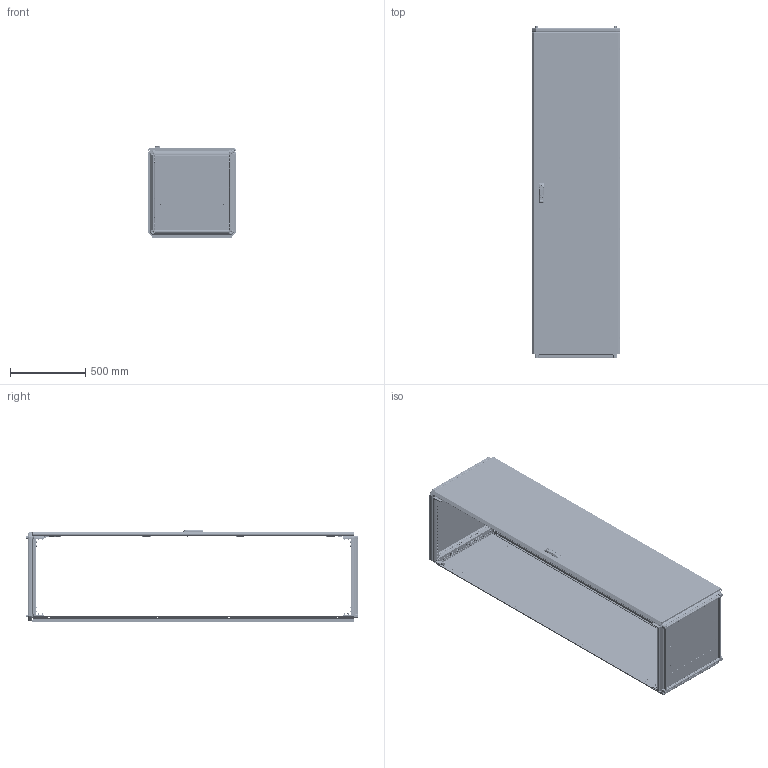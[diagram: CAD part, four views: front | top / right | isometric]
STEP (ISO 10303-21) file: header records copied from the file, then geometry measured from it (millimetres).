
FILE_DESCRIPTION (( 'STEP AP203' ), '1' );
FILE_NAME ('MA1.000.060622.10.00 AleSta2266 Øêàô AleSta 600õ600õ2200.STEP', '2024-08-23T08:46:43', ( '' ), ( '' ), 'SwSTEP 2.0', 'SolidWorks 2021', '' );
FILE_SCHEMA (( 'CONFIG_CONTROL_DESIGN' ));
Length unit declared in the file: millimetre
Products named in the file (49): 7380-2 ISO Âèíòû ñ ïîëóêðóãëîé ãîëîâêîé ñ ôëàíöåì ñ âíóòðåííèì øåñòèãðàííèêîì Ì4õ10; òÿãà_lg001-2.STEP_‚=2200; MA1.101.060620.20.00 Íèæíÿÿ ïàíåëü 600õ600_600å600; MA1.200.060620.31.01 Ïîëîòíî äâåðè ñïëîøíîé 2000õ600_2200å600; MA1.102.060620.00.00 AleSta-VG2000 Ñòîéêè âåðòèêàëüíûå, Â=2000ìì  (4øò)_ 600å600; MA1.101.060620.00.00 AleSta-RB66 Êîìïëåêò êðûøà è îñíîâàíèå_ 600å600; 諘蜱齁罻 022 瀁錒瀔隮; Óïëîòíèòåëü ïàíåëè íèæíåé_ 600å600; Ãàéêà ñàìîêîíòðÿùàÿñÿ ñ íåéëîíîâîé âñòàâêîé Ì6 DIN 985, êëàññ ïðî÷íîñòè 8, îöèíêîâàííàÿ ñòàëü_Œ5; ﾘ琺矜 01.019 ﾃﾎﾑﾒ11371-78_12; Ïåòëÿ íà äâåðü ï-îáðàçíàÿ; MA1.200.060620.30.00 AleSta-D20M600 Äâåðü ñïëîøíàÿ äëÿ øêàôîâ ALESTA ÂõØ 2000õ600_2200å600; ﾘ琺矜 65ﾃ 019 ﾃﾎﾑﾒ 6402-70_12; Âèíò_ðåçüáîâûäàâëèâàþùèé_Ì5õ12_DIN 7500E_00; Øïèëüêà Ì6õ12_˜¯¨«ìª  Œ6å12; MA1.200.060620.10.00 AleSta-PR206  Ïàíåëü çàäíÿÿ, äëÿ øêàôîâ ALESTA, 2000 x 600_2200å600; MA1.200.060620.31.04 ðèãåëü çàìêà äâåðè; Âèíò ñàìîíàðåçàþùèé ñ ïîòàéíîé ãîëîâêîé Ì5x14 DIN 7500 M TORX, êëàññ ïðî÷íîñòè 8.8, îöèíêîâàííàÿ ñòàëü_Œ5å14; MA1.200.060620.11.00 Ïàíåëü çàäíÿÿ, äëÿ øêàôîâ AleSta, 2000x600_2200å600; MA1.101.060620.20.01 Ïîëîòíî íèæíåé ïàíåëè 600õ600_600å600; MA1.200.060620.11.01 Ïîëîòíî çàäíåé ïàíåëè 2000õ600_2200å600; MA1.101.060620.00.02 Ïðîôèëü ïîïåðå÷íûé ñâàðíîé_01 L=498 (˜=600); Áîëò øåñòèãðàííûé Ì5õ12 DIN 933, êëàññ ïðî÷íîñòè 8.8, îöèíêîâàííàÿ ñòàëü; MS463-2-3(1); Øàéáà ñòîïîðíàÿ ñ íàðóæíûìè çóáöàìè SCHNORR, òèï VS öèíêîâûå õëîïüÿ Ì6 O6,4 ART 88121_Œ6; Ïðîáêà ïëàñòèêîâàÿ óíèâåðñàëüíàÿ ïîä îòâåðñòèå 4,5 ìì, ñåðèÿ ST, öâåò áåñöâåòíûé – ST4,5; MA1.200.060620.31.03 Ðåéêà íà äâåðü ãîðèçîíòàëüíàÿ Ø = 600_˜ = 600; Øïèëüêà Ì6õ12_˜¯¨«ìª  Œ6å20; Âèíò ðåçüáîâûäàâëèâàþùèé Ì6õ12 DIN 7500E_Œ6å10; Âèíò_ðåçüáîâûäàâëèâàþùèé_Ì5õ12_DIN 7500E_Œ5å12; Âèíò ñ âí. øåñòèãðàííèêîì M12 DIN912_•30; MA1.200.060620.31.00 Äâåðü ñïëîøíàÿ äëÿ øêàôîâ ALESTA ÂõØ 2000õ600_2200å600; MA1.101.060620.10.00 ﾊ 600x600_600x600; Øïèëüêà Ì6õ12_˜¯¨«ìª  Œ6å16; MA1.000.060622.10.00 AleSta2266 Øêàô AleSta 600õ600õ2200; MA1.100.060620.00.01 Ñîåäèíèòåëü óãëîâîé_00; MA1.101.060620.10.01 Ïîëîòíî êðûøè 600õ600_600å600; äåðæàòåëü_êðóãëîé_òÿãèRG002-RG1010-2-i-RG1010-3-.stp; Íàâåñêà íà êîðïóñ ïîä êëåïêó; Óïëîòíèòåëü ïàíåëè íèæíåé_‚=2200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
Assembly tree (337 placements, depth 4):
  Ïðîáêà ïëàñòèêîâàÿ óíèâåðñàëüíàÿ ïîä îòâåðñòèå 4,5 ìì, ñåðèÿ ST, öâåò áåñöâåòíûé – ST4,5
  MA1.000.060622.10.00 AleSta2266 Øêàô AleSta 600õ600õ2200
    MA1.101.060620.00.00 AleSta-RB66 Êîìïëåêò êðûøà è îñíîâàíèå_ 600å600
      MA1.101.060620.00.02 Ïðîôèëü ïîïåðå÷íûé ñâàðíîé_01 L=498 (˜=600)  x8
      MA1.101.060620.10.00 ﾊ 600x600_600x600
        MA1.101.060620.10.01 Ïîëîòíî êðûøè 600õ600_600å600
        Øïèëüêà Ì6õ12_˜¯¨«ìª  Œ6å12  x4
        Óïëîòíèòåëü ïàíåëè íèæíåé_ 600å600
      MA1.101.060620.20.00 Íèæíÿÿ ïàíåëü 600õ600_600å600
        MA1.101.060620.20.01 Ïîëîòíî íèæíåé ïàíåëè 600õ600_600å600
        ﾇﾀﾊﾋﾅﾏﾊﾀ ﾃﾀﾅﾗﾍﾀﾟ ﾘﾅﾑﾒﾈﾃﾐﾀﾍﾍﾀﾟ ﾑ ﾓﾌﾅﾍﾜﾘﾅﾍﾍﾛﾌ ﾁﾎﾐﾒﾎﾌ M4 X 11 (0.5-2.5 ﾌﾌ) HEX U-S ﾖﾈﾍﾊ  x4
        MA1.101.060620.20.02 Çàêðûòèå íèæíåé ïàíåëè 600õ600_600å600  x2
        7380-2 ISO Âèíòû ñ ïîëóêðóãëîé ãîëîâêîé ñ ôëàíöåì ñ âíóòðåííèì øåñòèãðàííèêîì Ì4õ10  x4
      Âèíò_ðåçüáîâûäàâëèâàþùèé_Ì5õ12_DIN 7500E_Œ5å12  x8
      MA1.100.060620.00.01 Ñîåäèíèòåëü óãëîâîé_00  x8
      Âèíò ñ âí. øåñòèãðàííèêîì M12 DIN912_•30  x4
      Âèíò ðåçüáîâûäàâëèâàþùèé Ì6õ12 DIN 7500E_Œ6å10  x96
      ﾘ琺矜 01.019 ﾃﾎﾑﾒ11371-78_12  x4
      ﾘ琺矜 65ﾃ 019 ﾃﾎﾑﾒ 6402-70_12  x4
      Øàéáà ñòîïîðíàÿ ñ íàðóæíûìè çóáöàìè SCHNORR, òèï VS öèíêîâûå õëîïüÿ Ì6 O6,4 ART 88121_Œ6  x80
    MA1.102.060620.00.00 AleSta-VG2000 Ñòîéêè âåðòèêàëüíûå, Â=2000ìì  (4øò)_ 600å600
      MA1.102.060620.00.01 Ïðîôèëü âåðòèêàëüíûé ñâàðíîé_05 L=2098 (‚=2200)  x4
    MA1.200.060620.10.00 AleSta-PR206  Ïàíåëü çàäíÿÿ, äëÿ øêàôîâ ALESTA, 2000 x 600_2200å600
      MA1.200.060620.11.00 Ïàíåëü çàäíÿÿ, äëÿ øêàôîâ AleSta, 2000x600_2200å600
        MA1.200.060620.11.01 Ïîëîòíî çàäíåé ïàíåëè 2000õ600_2200å600
        Óïëîòíèòåëü ïàíåëè íèæíåé_‚=2200
        Øïèëüêà Ì6õ12_˜¯¨«ìª  Œ6å12  x4
      Âèíò ñàìîíàðåçàþùèé ñ ïîòàéíîé ãîëîâêîé Ì5x14 DIN 7500 M TORX, êëàññ ïðî÷íîñòè 8.8, îöèíêîâàííàÿ ñòàëü_Œ5å14  x8
    MA1.200.060620.30.00 AleSta-D20M600 Äâåðü ñïëîøíàÿ äëÿ øêàôîâ ALESTA ÂõØ 2000õ600_2200å600
      MA1.200.060620.31.00 Äâåðü ñïëîøíàÿ äëÿ øêàôîâ ALESTA ÂõØ 2000õ600_2200å600
        MA1.200.060620.31.01 Ïîëîòíî äâåðè ñïëîøíîé 2000õ600_2200å600
        Óïëîòíèòåëü ïàíåëè íèæíåé_‚=2200
        Øïèëüêà Ì6õ12_˜¯¨«ìª  Œ6å20  x16
        Øïèëüêà Ì6õ12_˜¯¨«ìª  Œ6å16  x4
        Ïåòëÿ íà äâåðü ï-îáðàçíàÿ  x4
      MA1.200.060620.31.03 Ðåéêà íà äâåðü ãîðèçîíòàëüíàÿ Ø = 600_˜ = 600  x2
      諘蜱齁罻 022 瀁錒瀔隮  x4
      MA1.200.060620.31.02 Ðåéêà íà äâåðü âåðòèêàëüíàÿ Â = 2000_‚ = 2200  x2
      äåðæàòåëü_êðóãëîé_òÿãèRG002-RG1010-2-i-RG1010-3-.stp  x2
      òÿãà_lg001-2.STEP_‚=2200  x2
      êðåïëåíèå_êðóãëîé_òÿãè_RG1020-1.stp  x2
      MS463-2-3(1)
      Ãàéêà ñàìîêîíòðÿùàÿñÿ ñ íåéëîíîâîé âñòàâêîé Ì6 DIN 985, êëàññ ïðî÷íîñòè 8, îöèíêîâàííàÿ ñòàëü_Œ6  x16
      Ãàéêà ñàìîêîíòðÿùàÿñÿ ñ íåéëîíîâîé âñòàâêîé Ì6 DIN 985, êëàññ ïðî÷íîñòè 8, îöèíêîâàííàÿ ñòàëü_Œ5  x2
      Áîëò øåñòèãðàííûé Ì5õ12 DIN 933, êëàññ ïðî÷íîñòè 8.8, îöèíêîâàííàÿ ñòàëü  x2
      MA1.200.060620.31.04 ðèãåëü çàìêà äâåðè
      MA1.200.060620.31.05 Óãëîâîé óïîð äâåðíîé òÿãè  x2
      Âèíò_ðåçüáîâûäàâëèâàþùèé_Ì5õ12_DIN 7500E_00  x2
      Íàâåñêà íà êîðïóñ ïîä êëåïêó  x4
      Îñü ïåòëè 4õ52_‚¨­â A.M4x0,5x40 ƒŽ‘’ 11644-75  x4
      Âèíò ñàìîíàðåçàþùèé ñ ïîòàéíîé ãîëîâêîé Ì5x14 DIN 7500 M TORX, êëàññ ïðî÷íîñòè 8.8, îöèíêîâàííàÿ ñòàëü_Œ5å12  x8
Bounding box: 592 x 2210.9 x 616.8 mm (x, y, z)
Volume: 7749803.2 mm3; surface area: 9700957.4 mm2
Topology: 360 solids, 374 shells, 18763 faces, 47726 edges, 29688 vertices
Faces by surface type: plane 11473, cylinder 5173, bspline 921, cone 845, torus 253, sphere 98
Entity records: 243373 total; most frequent: CARTESIAN_POINT 78963, ORIENTED_EDGE 31422, DIRECTION 30850, EDGE_CURVE 15728, AXIS2_PLACEMENT_3D 10604, VERTEX_POINT 9825, LINE 9642, VECTOR 9642
